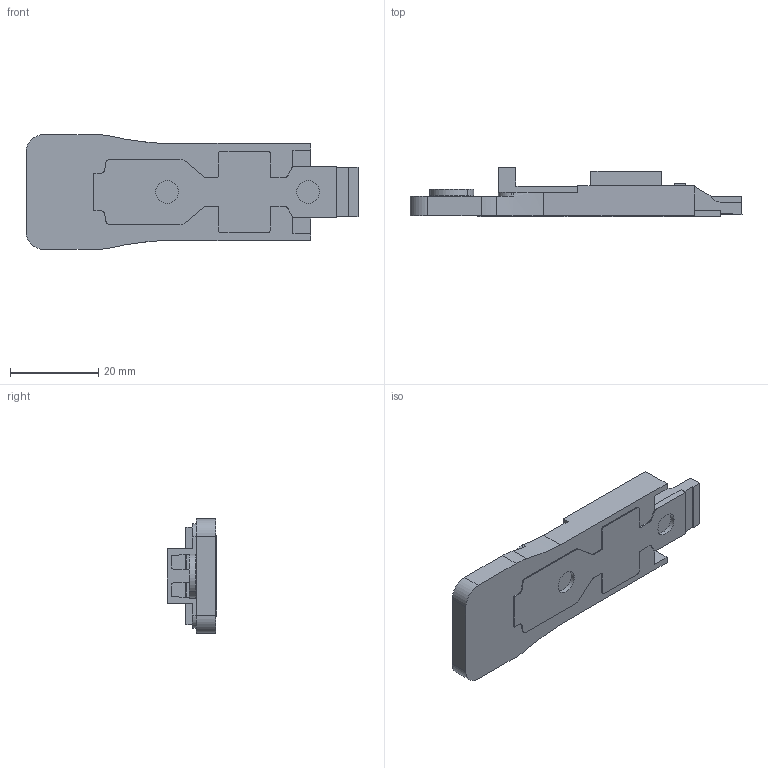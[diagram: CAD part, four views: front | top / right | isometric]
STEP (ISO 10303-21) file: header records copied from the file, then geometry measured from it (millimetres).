
FILE_DESCRIPTION (( 'STEP AP203' ), '1' );
FILE_NAME ('80H20YQ.STEP', '2023-10-07T07:13:21', ( 'Windows 蚚誧' ), ( '' ), 'SwSTEP 2.0', 'SolidWorks 2018', '' );
FILE_SCHEMA (( 'CONFIG_CONTROL_DESIGN' ));
Length unit declared in the file: millimetre
Products named in the file (1): 80H20YQ
Bounding box: 75.29 x 11.2 x 25.99 mm (x, y, z)
Volume: 10031.9 mm3; surface area: 5061.2 mm2
Topology: 1 solids, 1 shells, 141 faces, 400 edges, 264 vertices
Faces by surface type: plane 88, cylinder 44, bspline 7, torus 2
Entity records: 4735 total; most frequent: CARTESIAN_POINT 958, ORIENTED_EDGE 800, DIRECTION 745, EDGE_CURVE 400, LINE 287, VECTOR 287, VERTEX_POINT 264, AXIS2_PLACEMENT_3D 229
